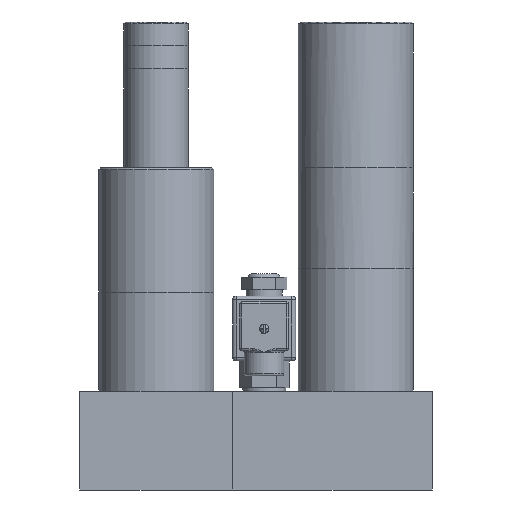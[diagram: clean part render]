
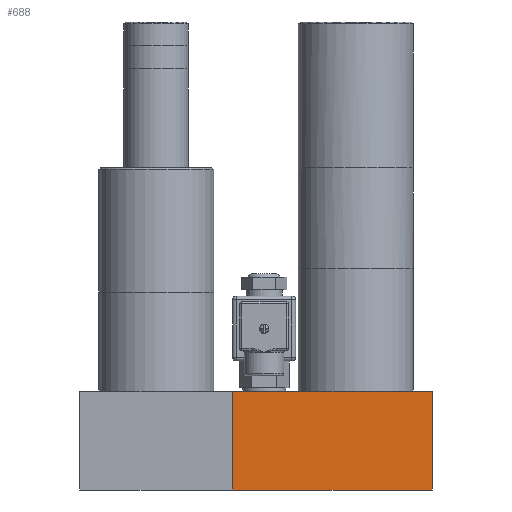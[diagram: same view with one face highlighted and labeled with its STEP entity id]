
A CAD part, front view. The second image highlights one B-rep face of the part: STEP entity #688.
In plain terms, the highlighted planar face has unit normal (0, -1, 0).
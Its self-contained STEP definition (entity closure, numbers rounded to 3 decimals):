
#649=CARTESIAN_POINT('Axis2P3D Location',(42.5,-42.5,55.)) ;
#654=CARTESIAN_POINT('Line Origine',(153.5,-42.5,27.5)) ;
#658=CARTESIAN_POINT('Vertex',(153.5,-42.5,55.)) ;
#660=CARTESIAN_POINT('Vertex',(153.5,-42.5,0.)) ;
#663=CARTESIAN_POINT('Line Origine',(98.,-42.5,55.)) ;
#667=CARTESIAN_POINT('Vertex',(42.5,-42.5,55.)) ;
#670=CARTESIAN_POINT('Line Origine',(42.5,-42.5,27.5)) ;
#674=CARTESIAN_POINT('Vertex',(42.5,-42.5,0.)) ;
#677=CARTESIAN_POINT('Line Origine',(98.,-42.5,0.)) ;
#650=DIRECTION('Axis2P3D Direction',(0.,1.,0.)) ;
#651=DIRECTION('Axis2P3D XDirection',(1.,0.,0.)) ;
#655=DIRECTION('Vector Direction',(0.,0.,-1.)) ;
#664=DIRECTION('Vector Direction',(1.,0.,0.)) ;
#671=DIRECTION('Vector Direction',(0.,0.,-1.)) ;
#678=DIRECTION('Vector Direction',(1.,0.,0.)) ;
#652=AXIS2_PLACEMENT_3D('Plane Axis2P3D',#649,#650,#651) ;
#683=ORIENTED_EDGE('',*,*,#662,.F.) ;
#684=ORIENTED_EDGE('',*,*,#669,.T.) ;
#685=ORIENTED_EDGE('',*,*,#676,.T.) ;
#686=ORIENTED_EDGE('',*,*,#681,.F.) ;
#656=VECTOR('Line Direction',#655,1.) ;
#665=VECTOR('Line Direction',#664,1.) ;
#672=VECTOR('Line Direction',#671,1.) ;
#679=VECTOR('Line Direction',#678,1.) ;
#688=ADVANCED_FACE('',(#687),#653,.F.) ;
#662=EDGE_CURVE('',#659,#661,#657,.T.) ;
#669=EDGE_CURVE('',#659,#668,#666,.F.) ;
#676=EDGE_CURVE('',#668,#675,#673,.T.) ;
#681=EDGE_CURVE('',#661,#675,#680,.F.) ;
#682=EDGE_LOOP('',(#683,#684,#685,#686)) ;
#687=FACE_OUTER_BOUND('',#682,.T.) ;
#657=LINE('Line',#654,#656) ;
#666=LINE('Line',#663,#665) ;
#673=LINE('Line',#670,#672) ;
#680=LINE('Line',#677,#679) ;
#653=PLANE('Plane',#652) ;
#659=VERTEX_POINT('',#658) ;
#661=VERTEX_POINT('',#660) ;
#668=VERTEX_POINT('',#667) ;
#675=VERTEX_POINT('',#674) ;
